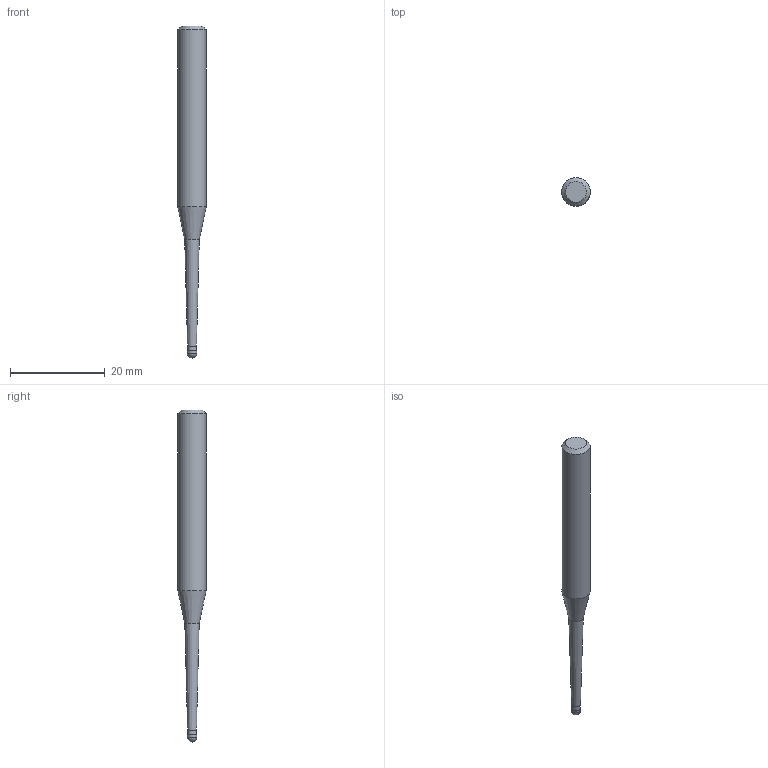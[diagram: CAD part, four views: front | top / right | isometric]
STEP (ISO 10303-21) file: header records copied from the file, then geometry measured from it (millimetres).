
FILE_DESCRIPTION((''),'2;1');
FILE_NAME('C:\Users\nsx150\AppData\Local\Temp\Mastercam 2021\E0ENTZRV18\TEMP.step','2021-09-02T09:56:58',(''),(''),'STEP Write','Mastercam 2021 ... CNC Software, Inc.','');
FILE_SCHEMA(('AUTOMOTIVE_DESIGN'));
Length unit declared in the file: millimetre
Products named in the file (1): None
Bounding box: 6 x 6 x 70 mm (x, y, z)
Volume: 1303.7 mm3; surface area: 1033.4 mm2
Topology: 2 solids, 2 shells, 10 faces, 16 edges, 9 vertices
Faces by surface type: plane 3, cylinder 3, cone 3, sphere 1
Full cylindrical faces by diameter (mm): 1.875 x1, 2 x1, 6 x1
Entity records: 232 total; most frequent: DIRECTION 40, CARTESIAN_POINT 28, AXIS2_PLACEMENT_3D 20, ORIENTED_EDGE 16, EDGE_LOOP 16, STYLED_ITEM 13, ADVANCED_FACE 10, FACE_BOUND 9
